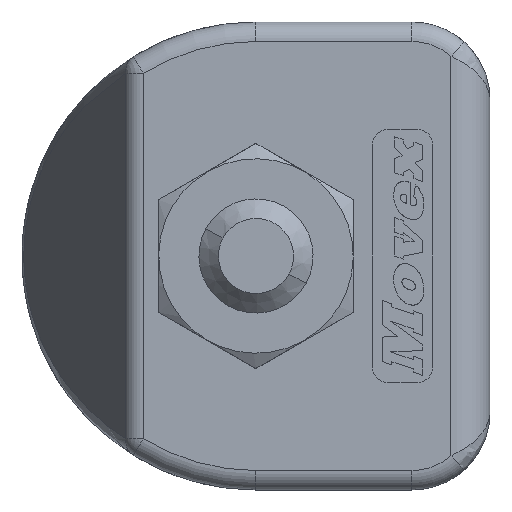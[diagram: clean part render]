
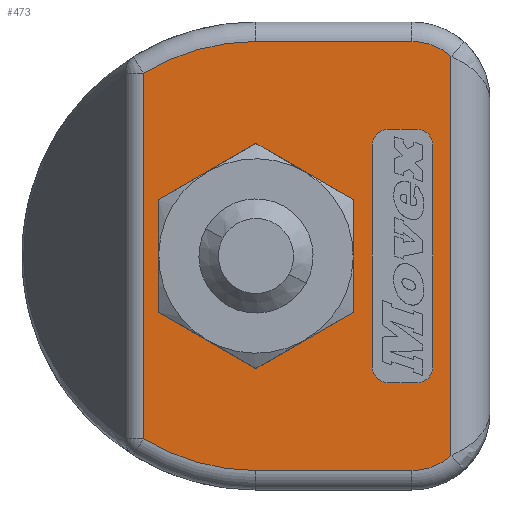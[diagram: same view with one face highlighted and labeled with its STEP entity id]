
A CAD part, left-side view. The second image highlights one B-rep face of the part: STEP entity #473.
In plain terms, the highlighted planar face has unit normal (-1, 0, 0) as drawn and (1, 0, 0) by its records, which use the part's own axes.
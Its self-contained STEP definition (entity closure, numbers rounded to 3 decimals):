
#286=CARTESIAN_POINT('Axis2P3D Location',(20.,2.,0.)) ;
#291=CARTESIAN_POINT('Axis2P3D Location',(20.,12.,0.)) ;
#295=CARTESIAN_POINT('Vertex',(20.,12.,11.)) ;
#297=CARTESIAN_POINT('Vertex',(20.,17.767,9.367)) ;
#300=CARTESIAN_POINT('Line Origine',(20.,8.,11.)) ;
#304=CARTESIAN_POINT('Vertex',(20.,4.,11.)) ;
#307=CARTESIAN_POINT('Axis2P3D Location',(20.,4.,8.)) ;
#311=CARTESIAN_POINT('Vertex',(20.,2.,10.236)) ;
#314=CARTESIAN_POINT('Line Origine',(20.,2.,0.)) ;
#318=CARTESIAN_POINT('Vertex',(20.,2.,-10.236)) ;
#321=CARTESIAN_POINT('Axis2P3D Location',(20.,4.,-8.)) ;
#325=CARTESIAN_POINT('Vertex',(20.,4.,-11.)) ;
#328=CARTESIAN_POINT('Line Origine',(20.,8.,-11.)) ;
#332=CARTESIAN_POINT('Vertex',(20.,12.,-11.)) ;
#335=CARTESIAN_POINT('Axis2P3D Location',(20.,12.,0.)) ;
#339=CARTESIAN_POINT('Vertex',(20.,17.767,-9.367)) ;
#342=CARTESIAN_POINT('Line Origine',(20.,17.767,0.)) ;
#357=CARTESIAN_POINT('Line Origine',(20.,14.5,4.33)) ;
#361=CARTESIAN_POINT('Vertex',(20.,17.,2.887)) ;
#363=CARTESIAN_POINT('Vertex',(20.,12.,5.774)) ;
#366=CARTESIAN_POINT('Line Origine',(20.,17.,0.)) ;
#370=CARTESIAN_POINT('Vertex',(20.,17.,-2.887)) ;
#373=CARTESIAN_POINT('Line Origine',(20.,14.5,-4.33)) ;
#377=CARTESIAN_POINT('Vertex',(20.,12.,-5.774)) ;
#380=CARTESIAN_POINT('Line Origine',(20.,9.5,-4.33)) ;
#384=CARTESIAN_POINT('Vertex',(20.,7.,-2.887)) ;
#387=CARTESIAN_POINT('Line Origine',(20.,7.,0.)) ;
#391=CARTESIAN_POINT('Vertex',(20.,7.,2.887)) ;
#394=CARTESIAN_POINT('Line Origine',(20.,9.5,4.33)) ;
#407=CARTESIAN_POINT('Axis2P3D Location',(20.,5.192,-5.663)) ;
#411=CARTESIAN_POINT('Vertex',(20.,5.192,-6.512)) ;
#413=CARTESIAN_POINT('Vertex',(20.,6.041,-5.663)) ;
#416=CARTESIAN_POINT('Line Origine',(20.,4.484,-6.512)) ;
#420=CARTESIAN_POINT('Vertex',(20.,3.776,-6.512)) ;
#423=CARTESIAN_POINT('Axis2P3D Location',(20.,3.776,-5.663)) ;
#427=CARTESIAN_POINT('Vertex',(20.,2.927,-5.663)) ;
#430=CARTESIAN_POINT('Line Origine',(20.,2.927,0.)) ;
#434=CARTESIAN_POINT('Vertex',(20.,2.927,5.663)) ;
#437=CARTESIAN_POINT('Axis2P3D Location',(20.,3.776,5.663)) ;
#441=CARTESIAN_POINT('Vertex',(20.,3.776,6.512)) ;
#444=CARTESIAN_POINT('Line Origine',(20.,4.484,6.512)) ;
#448=CARTESIAN_POINT('Vertex',(20.,5.192,6.512)) ;
#451=CARTESIAN_POINT('Axis2P3D Location',(20.,5.192,5.663)) ;
#455=CARTESIAN_POINT('Vertex',(20.,6.041,5.663)) ;
#458=CARTESIAN_POINT('Line Origine',(20.,6.041,0.)) ;
#287=DIRECTION('Axis2P3D Direction',(1.,0.,0.)) ;
#288=DIRECTION('Axis2P3D XDirection',(0.,1.,0.)) ;
#292=DIRECTION('Axis2P3D Direction',(1.,0.,0.)) ;
#301=DIRECTION('Vector Direction',(0.,1.,0.)) ;
#308=DIRECTION('Axis2P3D Direction',(1.,0.,0.)) ;
#315=DIRECTION('Vector Direction',(0.,0.,1.)) ;
#322=DIRECTION('Axis2P3D Direction',(1.,0.,0.)) ;
#329=DIRECTION('Vector Direction',(0.,1.,0.)) ;
#336=DIRECTION('Axis2P3D Direction',(1.,0.,0.)) ;
#343=DIRECTION('Vector Direction',(0.,0.,1.)) ;
#358=DIRECTION('Vector Direction',(0.,-0.866,0.5)) ;
#367=DIRECTION('Vector Direction',(0.,0.,1.)) ;
#374=DIRECTION('Vector Direction',(0.,0.866,0.5)) ;
#381=DIRECTION('Vector Direction',(0.,0.866,-0.5)) ;
#388=DIRECTION('Vector Direction',(0.,0.,-1.)) ;
#395=DIRECTION('Vector Direction',(0.,-0.866,-0.5)) ;
#408=DIRECTION('Axis2P3D Direction',(1.,0.,0.)) ;
#417=DIRECTION('Vector Direction',(0.,-1.,0.)) ;
#424=DIRECTION('Axis2P3D Direction',(1.,0.,0.)) ;
#431=DIRECTION('Vector Direction',(0.,0.,1.)) ;
#438=DIRECTION('Axis2P3D Direction',(1.,0.,0.)) ;
#445=DIRECTION('Vector Direction',(0.,1.,0.)) ;
#452=DIRECTION('Axis2P3D Direction',(1.,0.,0.)) ;
#459=DIRECTION('Vector Direction',(0.,0.,-1.)) ;
#289=AXIS2_PLACEMENT_3D('Plane Axis2P3D',#286,#287,#288) ;
#293=AXIS2_PLACEMENT_3D('Circle Axis2P3D',#291,#292,$) ;
#309=AXIS2_PLACEMENT_3D('Circle Axis2P3D',#307,#308,$) ;
#323=AXIS2_PLACEMENT_3D('Circle Axis2P3D',#321,#322,$) ;
#337=AXIS2_PLACEMENT_3D('Circle Axis2P3D',#335,#336,$) ;
#409=AXIS2_PLACEMENT_3D('Circle Axis2P3D',#407,#408,$) ;
#425=AXIS2_PLACEMENT_3D('Circle Axis2P3D',#423,#424,$) ;
#439=AXIS2_PLACEMENT_3D('Circle Axis2P3D',#437,#438,$) ;
#453=AXIS2_PLACEMENT_3D('Circle Axis2P3D',#451,#452,$) ;
#348=ORIENTED_EDGE('',*,*,#299,.F.) ;
#349=ORIENTED_EDGE('',*,*,#306,.F.) ;
#350=ORIENTED_EDGE('',*,*,#313,.F.) ;
#351=ORIENTED_EDGE('',*,*,#320,.F.) ;
#352=ORIENTED_EDGE('',*,*,#327,.T.) ;
#353=ORIENTED_EDGE('',*,*,#334,.T.) ;
#354=ORIENTED_EDGE('',*,*,#341,.T.) ;
#355=ORIENTED_EDGE('',*,*,#346,.T.) ;
#400=ORIENTED_EDGE('',*,*,#365,.F.) ;
#401=ORIENTED_EDGE('',*,*,#372,.F.) ;
#402=ORIENTED_EDGE('',*,*,#379,.F.) ;
#403=ORIENTED_EDGE('',*,*,#386,.F.) ;
#404=ORIENTED_EDGE('',*,*,#393,.F.) ;
#405=ORIENTED_EDGE('',*,*,#398,.F.) ;
#464=ORIENTED_EDGE('',*,*,#415,.F.) ;
#465=ORIENTED_EDGE('',*,*,#422,.F.) ;
#466=ORIENTED_EDGE('',*,*,#429,.F.) ;
#467=ORIENTED_EDGE('',*,*,#436,.F.) ;
#468=ORIENTED_EDGE('',*,*,#443,.F.) ;
#469=ORIENTED_EDGE('',*,*,#450,.F.) ;
#470=ORIENTED_EDGE('',*,*,#457,.F.) ;
#471=ORIENTED_EDGE('',*,*,#462,.F.) ;
#406=FACE_BOUND('',#399,.T.) ;
#472=FACE_BOUND('',#463,.T.) ;
#302=VECTOR('Line Direction',#301,1.) ;
#316=VECTOR('Line Direction',#315,1.) ;
#330=VECTOR('Line Direction',#329,1.) ;
#344=VECTOR('Line Direction',#343,1.) ;
#359=VECTOR('Line Direction',#358,1.) ;
#368=VECTOR('Line Direction',#367,1.) ;
#375=VECTOR('Line Direction',#374,1.) ;
#382=VECTOR('Line Direction',#381,1.) ;
#389=VECTOR('Line Direction',#388,1.) ;
#396=VECTOR('Line Direction',#395,1.) ;
#418=VECTOR('Line Direction',#417,1.) ;
#432=VECTOR('Line Direction',#431,1.) ;
#446=VECTOR('Line Direction',#445,1.) ;
#460=VECTOR('Line Direction',#459,1.) ;
#473=ADVANCED_FACE('PartBody',(#356,#406,#472),#290,.T.) ;
#294=CIRCLE('generated circle',#293,11.) ;
#310=CIRCLE('generated circle',#309,3.) ;
#324=CIRCLE('generated circle',#323,3.) ;
#338=CIRCLE('generated circle',#337,11.) ;
#410=CIRCLE('generated circle',#409,0.849) ;
#426=CIRCLE('generated circle',#425,0.849) ;
#440=CIRCLE('generated circle',#439,0.849) ;
#454=CIRCLE('generated circle',#453,0.849) ;
#299=EDGE_CURVE('',#296,#298,#294,.F.) ;
#306=EDGE_CURVE('',#305,#296,#303,.T.) ;
#313=EDGE_CURVE('',#312,#305,#310,.F.) ;
#320=EDGE_CURVE('',#319,#312,#317,.T.) ;
#327=EDGE_CURVE('',#319,#326,#324,.T.) ;
#334=EDGE_CURVE('',#326,#333,#331,.T.) ;
#341=EDGE_CURVE('',#333,#340,#338,.T.) ;
#346=EDGE_CURVE('',#340,#298,#345,.T.) ;
#365=EDGE_CURVE('',#362,#364,#360,.T.) ;
#372=EDGE_CURVE('',#371,#362,#369,.T.) ;
#379=EDGE_CURVE('',#378,#371,#376,.T.) ;
#386=EDGE_CURVE('',#385,#378,#383,.T.) ;
#393=EDGE_CURVE('',#392,#385,#390,.T.) ;
#398=EDGE_CURVE('',#364,#392,#397,.T.) ;
#415=EDGE_CURVE('',#412,#414,#410,.T.) ;
#422=EDGE_CURVE('',#421,#412,#419,.F.) ;
#429=EDGE_CURVE('',#428,#421,#426,.T.) ;
#436=EDGE_CURVE('',#435,#428,#433,.F.) ;
#443=EDGE_CURVE('',#442,#435,#440,.T.) ;
#450=EDGE_CURVE('',#449,#442,#447,.F.) ;
#457=EDGE_CURVE('',#456,#449,#454,.T.) ;
#462=EDGE_CURVE('',#414,#456,#461,.F.) ;
#347=EDGE_LOOP('',(#348,#349,#350,#351,#352,#353,#354,#355)) ;
#399=EDGE_LOOP('',(#400,#401,#402,#403,#404,#405)) ;
#463=EDGE_LOOP('',(#464,#465,#466,#467,#468,#469,#470,#471)) ;
#356=FACE_OUTER_BOUND('',#347,.T.) ;
#303=LINE('Line',#300,#302) ;
#317=LINE('Line',#314,#316) ;
#331=LINE('Line',#328,#330) ;
#345=LINE('Line',#342,#344) ;
#360=LINE('Line',#357,#359) ;
#369=LINE('Line',#366,#368) ;
#376=LINE('Line',#373,#375) ;
#383=LINE('Line',#380,#382) ;
#390=LINE('Line',#387,#389) ;
#397=LINE('Line',#394,#396) ;
#419=LINE('Line',#416,#418) ;
#433=LINE('Line',#430,#432) ;
#447=LINE('Line',#444,#446) ;
#461=LINE('Line',#458,#460) ;
#290=PLANE('',#289) ;
#296=VERTEX_POINT('',#295) ;
#298=VERTEX_POINT('',#297) ;
#305=VERTEX_POINT('',#304) ;
#312=VERTEX_POINT('',#311) ;
#319=VERTEX_POINT('',#318) ;
#326=VERTEX_POINT('',#325) ;
#333=VERTEX_POINT('',#332) ;
#340=VERTEX_POINT('',#339) ;
#362=VERTEX_POINT('',#361) ;
#364=VERTEX_POINT('',#363) ;
#371=VERTEX_POINT('',#370) ;
#378=VERTEX_POINT('',#377) ;
#385=VERTEX_POINT('',#384) ;
#392=VERTEX_POINT('',#391) ;
#412=VERTEX_POINT('',#411) ;
#414=VERTEX_POINT('',#413) ;
#421=VERTEX_POINT('',#420) ;
#428=VERTEX_POINT('',#427) ;
#435=VERTEX_POINT('',#434) ;
#442=VERTEX_POINT('',#441) ;
#449=VERTEX_POINT('',#448) ;
#456=VERTEX_POINT('',#455) ;
